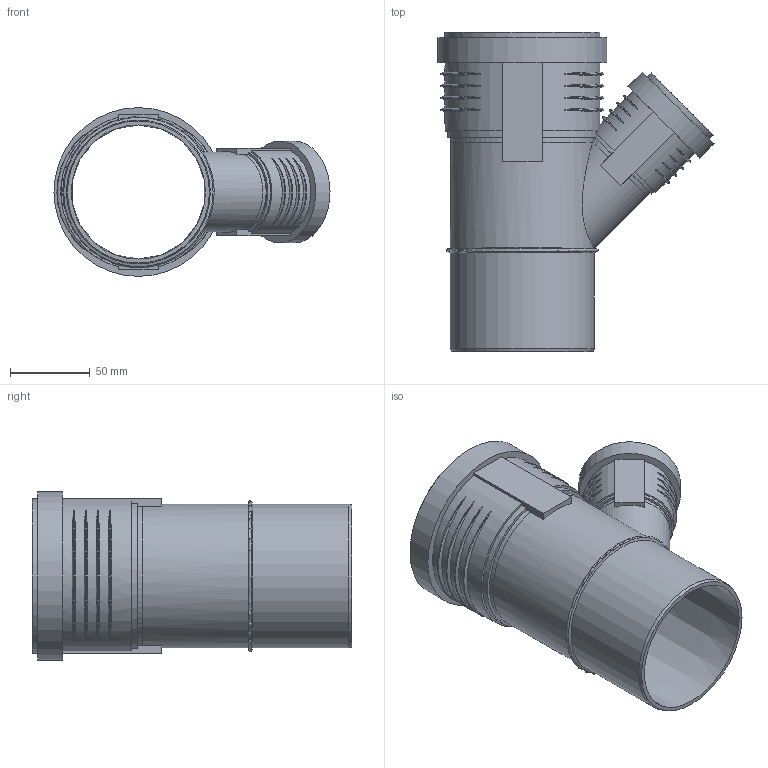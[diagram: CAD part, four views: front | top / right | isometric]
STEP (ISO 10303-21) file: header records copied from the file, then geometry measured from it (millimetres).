
FILE_DESCRIPTION(/* description */ (''),/* implementation_level */ '2;1');
FILE_NAME(/* name */ 'Z:\Geberit\Export\NewStep\390432.stp',/* time_stamp */ '2014-04-02T08:12:57+02:00',/* author */ ('ML'),/* organization */ (''),/* preprocessor_version */ 'ST-DEVELOPER v15.2',/* originating_system */ 'Autodesk Inventor 2014',/* authorisation */ '');
FILE_SCHEMA (('AUTOMOTIVE_DESIGN { 1 0 10303 214 3 1 1 }'));
Length unit declared in the file: millimetre
Products named in the file (4): 861342; 861401; 861403; 390432
Bounding box: 173 x 200 x 105.8 mm (x, y, z)
Volume: 219483.1 mm3; surface area: 159592.4 mm2
Topology: 3 solids, 3 shells, 124 faces, 302 edges, 210 vertices
Faces by surface type: torus 50, plane 37, cylinder 31, cone 6
Full cylindrical faces by diameter (mm): 46.15 x2, 50.15 x1, 51 x2, 55 x1, 59.7 x1, 63.7 x1, 84.2 x1, 90.2 x2, 91.2 x2, 97.2 x1, 99.8 x1, 105.8 x1
Entity records: 5067 total; most frequent: CARTESIAN_POINT 2142, ORIENTED_EDGE 544, DIRECTION 530, EDGE_CURVE 272, AXIS2_PLACEMENT_3D 229, VERTEX_POINT 204, EDGE_LOOP 182, STYLED_ITEM 125
